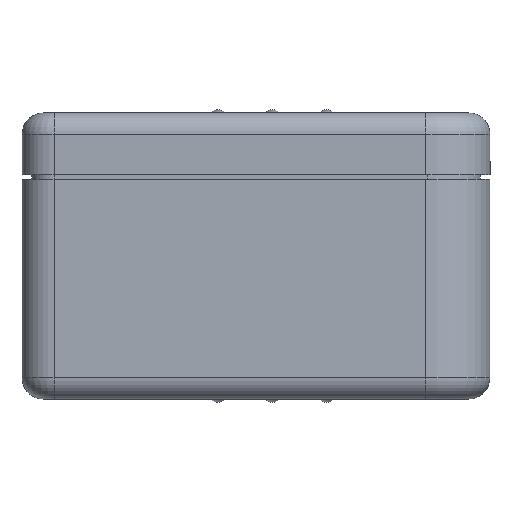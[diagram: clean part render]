
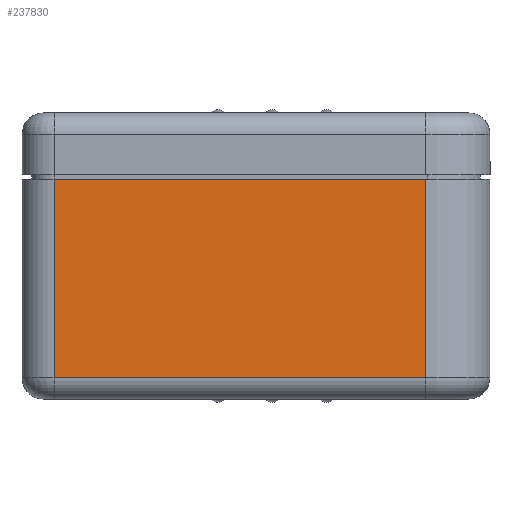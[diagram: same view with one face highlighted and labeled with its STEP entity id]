
A CAD part, front view. The second image highlights one B-rep face of the part: STEP entity #237830.
In plain terms, the highlighted planar face has unit normal (0, -1, 0).
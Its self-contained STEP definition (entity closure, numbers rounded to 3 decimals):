
#237120=CARTESIAN_POINT('',(-13.372,16.997,
8.625));
#237130=VERTEX_POINT('',#237120);
#237380=CARTESIAN_POINT('',(4.038,16.997,
8.625));
#237390=VERTEX_POINT('',#237380);
#237440=CARTESIAN_POINT('',(-0.006,16.997,
8.625));
#237450=DIRECTION('',(-1.,0.,0.));
#237460=VECTOR('',#237450,1.);
#237470=LINE('',#237440,#237460);
#237480=EDGE_CURVE('',#237390,#237130,#237470,.T.);
#237530=CARTESIAN_POINT('',(-8.316,16.997,
17.501));
#237540=DIRECTION('',(0.,1.,0.));
#237550=DIRECTION('',(-1.,0.,0.));
#237560=AXIS2_PLACEMENT_3D('',#237530,#237540,#237550);
#237570=PLANE('',#237560);
#237580=CARTESIAN_POINT('',(-13.372,16.997,
28.55));
#237590=DIRECTION('',(0.,0.,1.));
#237600=VECTOR('',#237590,1.);
#237610=LINE('',#237580,#237600);
#237620=CARTESIAN_POINT('',(-13.372,16.997,17.925));
#237630=VERTEX_POINT('',#237620);
#237640=EDGE_CURVE('',#237130,#237630,#237610,.T.);
#237650=ORIENTED_EDGE('',*,*,#237640,.F.);
#237660=CARTESIAN_POINT('',(0.,16.997,
17.925));
#237670=DIRECTION('',(1.,0.,0.));
#237680=VECTOR('',#237670,1.);
#237690=LINE('',#237660,#237680);
#237700=CARTESIAN_POINT('',(4.038,16.997,17.925));
#237710=VERTEX_POINT('',#237700);
#237720=EDGE_CURVE('',#237630,#237710,#237690,.T.);
#237730=ORIENTED_EDGE('',*,*,#237720,.F.);
#237740=CARTESIAN_POINT('',(4.038,16.997,
28.55));
#237750=DIRECTION('',(0.,0.,-1.));
#237760=VECTOR('',#237750,1.);
#237770=LINE('',#237740,#237760);
#237780=EDGE_CURVE('',#237710,#237390,#237770,.T.);
#237790=ORIENTED_EDGE('',*,*,#237780,.F.);
#237800=ORIENTED_EDGE('',*,*,#237480,.F.);
#237810=EDGE_LOOP('',(#237800,#237790,#237730,#237650));
#237820=FACE_OUTER_BOUND('',#237810,.T.);
#237830=ADVANCED_FACE('',(#237820),#237570,.F.);
